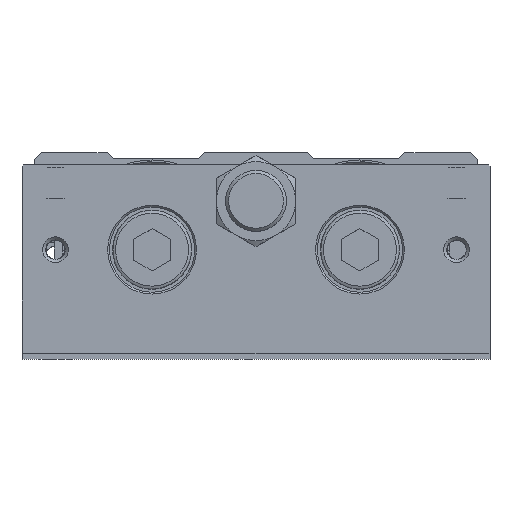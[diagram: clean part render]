
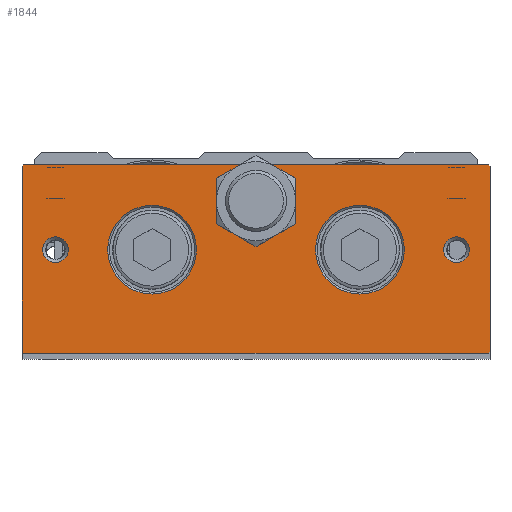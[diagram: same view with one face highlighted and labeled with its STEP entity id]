
A CAD part, top view. The second image highlights one B-rep face of the part: STEP entity #1844.
In plain terms, the highlighted planar face has unit normal (0, 0, 1).
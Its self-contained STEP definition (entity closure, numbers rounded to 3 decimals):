
#1642=CARTESIAN_POINT('',(-38.2,-17.5,329.0));
#1643=VERTEX_POINT('',#1642);
#1650=CARTESIAN_POINT('',(-38.5,-17.2,329.0));
#1651=VERTEX_POINT('',#1650);
#1652=CARTESIAN_POINT('',(-38.2,-17.5,329.0));
#1653=DIRECTION('',(-0.707,0.707,0.0));
#1654=VECTOR('',#1653,0.424);
#1655=LINE('',#1652,#1654);
#1656=EDGE_CURVE('',#1643,#1651,#1655,.T.);
#1667=CARTESIAN_POINT('',(0.0,-17.5,329.0));
#1668=DIRECTION('',(0.0,0.0,1.0));
#1669=DIRECTION('',(1.0,0.0,0.0));
#1670=AXIS2_PLACEMENT_3D('',#1667,#1668,#1669);
#1671=PLANE('',#1670);
#1672=ORIENTED_EDGE('',*,*,#1656,.F.);
#1673=CARTESIAN_POINT('',(38.2,-17.5,329.0));
#1674=VERTEX_POINT('',#1673);
#1675=CARTESIAN_POINT('',(-38.2,-17.5,329.0));
#1676=DIRECTION('',(1.0,0.0,0.0));
#1677=VECTOR('',#1676,76.4);
#1678=LINE('',#1675,#1677);
#1679=EDGE_CURVE('',#1643,#1674,#1678,.T.);
#1680=ORIENTED_EDGE('',*,*,#1679,.T.);
#1681=CARTESIAN_POINT('',(38.5,-17.2,329.0));
#1682=VERTEX_POINT('',#1681);
#1683=CARTESIAN_POINT('',(38.5,-17.2,329.0));
#1684=DIRECTION('',(-0.707,-0.707,0.0));
#1685=VECTOR('',#1684,0.424);
#1686=LINE('',#1683,#1685);
#1687=EDGE_CURVE('',#1682,#1674,#1686,.T.);
#1688=ORIENTED_EDGE('',*,*,#1687,.F.);
#1689=CARTESIAN_POINT('',(38.5,13.2,329.0));
#1690=VERTEX_POINT('',#1689);
#1691=CARTESIAN_POINT('',(38.5,-17.2,329.0));
#1692=DIRECTION('',(0.0,1.0,0.0));
#1693=VECTOR('',#1692,30.4);
#1694=LINE('',#1691,#1693);
#1695=EDGE_CURVE('',#1682,#1690,#1694,.T.);
#1696=ORIENTED_EDGE('',*,*,#1695,.T.);
#1697=CARTESIAN_POINT('',(38.2,13.5,329.0));
#1698=VERTEX_POINT('',#1697);
#1699=CARTESIAN_POINT('',(38.2,13.5,329.0));
#1700=DIRECTION('',(0.707,-0.707,0.0));
#1701=VECTOR('',#1700,0.424);
#1702=LINE('',#1699,#1701);
#1703=EDGE_CURVE('',#1698,#1690,#1702,.T.);
#1704=ORIENTED_EDGE('',*,*,#1703,.F.);
#1705=CARTESIAN_POINT('',(2.5,13.5,329.0));
#1706=VERTEX_POINT('',#1705);
#1707=CARTESIAN_POINT('',(38.2,13.5,329.0));
#1708=DIRECTION('',(-1.0,0.0,0.0));
#1709=VECTOR('',#1708,35.7);
#1710=LINE('',#1707,#1709);
#1711=EDGE_CURVE('',#1698,#1706,#1710,.T.);
#1712=ORIENTED_EDGE('',*,*,#1711,.T.);
#1713=CARTESIAN_POINT('',(3.25,13.129,329.0));
#1714=VERTEX_POINT('',#1713);
#1715=CARTESIAN_POINT('',(0.0,7.5,329.0));
#1716=DIRECTION('',(0.0,0.0,1.0));
#1717=DIRECTION('',(0.0,1.0,0.0));
#1718=AXIS2_PLACEMENT_3D('',#1715,#1716,#1717);
#1719=CIRCLE('',#1718,6.5);
#1720=EDGE_CURVE('',#1714,#1706,#1719,.T.);
#1721=ORIENTED_EDGE('',*,*,#1720,.F.);
#1722=CARTESIAN_POINT('',(6.5,7.5,329.0));
#1723=VERTEX_POINT('',#1722);
#1724=CARTESIAN_POINT('',(0.0,7.5,329.0));
#1725=DIRECTION('',(0.0,0.0,1.0));
#1726=DIRECTION('',(0.0,1.0,0.0));
#1727=AXIS2_PLACEMENT_3D('',#1724,#1725,#1726);
#1728=CIRCLE('',#1727,6.5);
#1729=EDGE_CURVE('',#1723,#1714,#1728,.T.);
#1730=ORIENTED_EDGE('',*,*,#1729,.F.);
#1731=CARTESIAN_POINT('',(3.25,1.871,329.0));
#1732=VERTEX_POINT('',#1731);
#1733=CARTESIAN_POINT('',(0.0,7.5,329.0));
#1734=DIRECTION('',(0.0,0.0,1.0));
#1735=DIRECTION('',(0.0,1.0,0.0));
#1736=AXIS2_PLACEMENT_3D('',#1733,#1734,#1735);
#1737=CIRCLE('',#1736,6.5);
#1738=EDGE_CURVE('',#1732,#1723,#1737,.T.);
#1739=ORIENTED_EDGE('',*,*,#1738,.F.);
#1740=CARTESIAN_POINT('',(-3.25,1.871,329.0));
#1741=VERTEX_POINT('',#1740);
#1742=CARTESIAN_POINT('',(0.0,7.5,329.0));
#1743=DIRECTION('',(0.0,0.0,1.0));
#1744=DIRECTION('',(0.0,1.0,0.0));
#1745=AXIS2_PLACEMENT_3D('',#1742,#1743,#1744);
#1746=CIRCLE('',#1745,6.5);
#1747=EDGE_CURVE('',#1741,#1732,#1746,.T.);
#1748=ORIENTED_EDGE('',*,*,#1747,.F.);
#1749=CARTESIAN_POINT('',(-6.5,7.5,329.0));
#1750=VERTEX_POINT('',#1749);
#1751=CARTESIAN_POINT('',(0.0,7.5,329.0));
#1752=DIRECTION('',(0.0,0.0,1.0));
#1753=DIRECTION('',(0.0,1.0,0.0));
#1754=AXIS2_PLACEMENT_3D('',#1751,#1752,#1753);
#1755=CIRCLE('',#1754,6.5);
#1756=EDGE_CURVE('',#1750,#1741,#1755,.T.);
#1757=ORIENTED_EDGE('',*,*,#1756,.F.);
#1758=CARTESIAN_POINT('',(-3.25,13.129,329.0));
#1759=VERTEX_POINT('',#1758);
#1760=CARTESIAN_POINT('',(0.0,7.5,329.0));
#1761=DIRECTION('',(0.0,0.0,1.0));
#1762=DIRECTION('',(0.0,1.0,0.0));
#1763=AXIS2_PLACEMENT_3D('',#1760,#1761,#1762);
#1764=CIRCLE('',#1763,6.5);
#1765=EDGE_CURVE('',#1759,#1750,#1764,.T.);
#1766=ORIENTED_EDGE('',*,*,#1765,.F.);
#1767=CARTESIAN_POINT('',(-2.5,13.5,329.0));
#1768=VERTEX_POINT('',#1767);
#1769=CARTESIAN_POINT('',(0.0,7.5,329.0));
#1770=DIRECTION('',(0.0,0.0,1.0));
#1771=DIRECTION('',(0.0,1.0,0.0));
#1772=AXIS2_PLACEMENT_3D('',#1769,#1770,#1771);
#1773=CIRCLE('',#1772,6.5);
#1774=EDGE_CURVE('',#1768,#1759,#1773,.T.);
#1775=ORIENTED_EDGE('',*,*,#1774,.F.);
#1776=CARTESIAN_POINT('',(-38.2,13.5,329.0));
#1777=VERTEX_POINT('',#1776);
#1778=CARTESIAN_POINT('',(-2.5,13.5,329.0));
#1779=DIRECTION('',(-1.0,0.0,0.0));
#1780=VECTOR('',#1779,35.7);
#1781=LINE('',#1778,#1780);
#1782=EDGE_CURVE('',#1768,#1777,#1781,.T.);
#1783=ORIENTED_EDGE('',*,*,#1782,.T.);
#1784=CARTESIAN_POINT('',(-38.5,13.2,329.0));
#1785=VERTEX_POINT('',#1784);
#1786=CARTESIAN_POINT('',(-38.5,13.2,329.0));
#1787=DIRECTION('',(0.707,0.707,0.0));
#1788=VECTOR('',#1787,0.424);
#1789=LINE('',#1786,#1788);
#1790=EDGE_CURVE('',#1785,#1777,#1789,.T.);
#1791=ORIENTED_EDGE('',*,*,#1790,.F.);
#1792=CARTESIAN_POINT('',(-38.5,13.2,329.0));
#1793=DIRECTION('',(0.0,-1.0,0.0));
#1794=VECTOR('',#1793,30.4);
#1795=LINE('',#1792,#1794);
#1796=EDGE_CURVE('',#1785,#1651,#1795,.T.);
#1797=ORIENTED_EDGE('',*,*,#1796,.T.);
#1798=EDGE_LOOP('',(#1672,#1680,#1688,#1696,#1704,#1712,#1721,#1730,#1739,#1748,#1757,#1766,#1775,#1783,#1791,#1797));
#1799=FACE_OUTER_BOUND('',#1798,.T.);
#1800=CARTESIAN_POINT('',(-9.8,-0.5,329.0));
#1801=VERTEX_POINT('',#1800);
#1802=CARTESIAN_POINT('',(-17.1,-0.5,329.0));
#1803=DIRECTION('',(0.0,0.0,1.0));
#1804=DIRECTION('',(-1.0,0.0,0.0));
#1805=AXIS2_PLACEMENT_3D('',#1802,#1803,#1804);
#1806=CIRCLE('',#1805,7.3);
#1807=EDGE_CURVE('',#1801,#1801,#1806,.T.);
#1808=ORIENTED_EDGE('',*,*,#1807,.F.);
#1809=EDGE_LOOP('',(#1808));
#1810=FACE_BOUND('',#1809,.T.);
#1811=CARTESIAN_POINT('',(35.121,-0.5,329.0));
#1812=VERTEX_POINT('',#1811);
#1813=CARTESIAN_POINT('',(33.0,-0.5,329.0));
#1814=DIRECTION('',(0.0,0.0,1.0));
#1815=DIRECTION('',(-1.0,0.0,0.0));
#1816=AXIS2_PLACEMENT_3D('',#1813,#1814,#1815);
#1817=CIRCLE('',#1816,2.121);
#1818=EDGE_CURVE('',#1812,#1812,#1817,.T.);
#1819=ORIENTED_EDGE('',*,*,#1818,.F.);
#1820=EDGE_LOOP('',(#1819));
#1821=FACE_BOUND('',#1820,.T.);
#1822=CARTESIAN_POINT('',(-30.879,-0.5,329.0));
#1823=VERTEX_POINT('',#1822);
#1824=CARTESIAN_POINT('',(-33.0,-0.5,329.0));
#1825=DIRECTION('',(0.0,0.0,1.0));
#1826=DIRECTION('',(-1.0,0.0,0.0));
#1827=AXIS2_PLACEMENT_3D('',#1824,#1825,#1826);
#1828=CIRCLE('',#1827,2.121);
#1829=EDGE_CURVE('',#1823,#1823,#1828,.T.);
#1830=ORIENTED_EDGE('',*,*,#1829,.F.);
#1831=EDGE_LOOP('',(#1830));
#1832=FACE_BOUND('',#1831,.T.);
#1833=CARTESIAN_POINT('',(24.4,-0.5,329.0));
#1834=VERTEX_POINT('',#1833);
#1835=CARTESIAN_POINT('',(17.1,-0.5,329.0));
#1836=DIRECTION('',(0.0,0.0,1.0));
#1837=DIRECTION('',(-1.0,0.0,0.0));
#1838=AXIS2_PLACEMENT_3D('',#1835,#1836,#1837);
#1839=CIRCLE('',#1838,7.3);
#1840=EDGE_CURVE('',#1834,#1834,#1839,.T.);
#1841=ORIENTED_EDGE('',*,*,#1840,.F.);
#1842=EDGE_LOOP('',(#1841));
#1843=FACE_BOUND('',#1842,.T.);
#1844=ADVANCED_FACE('',(#1799,#1810,#1821,#1832,#1843),#1671,.T.);
